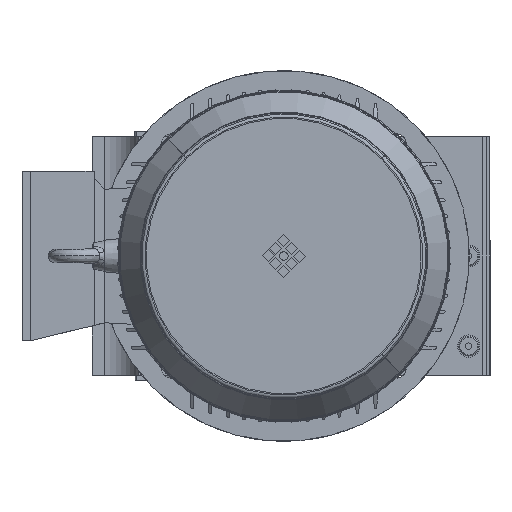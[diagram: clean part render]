
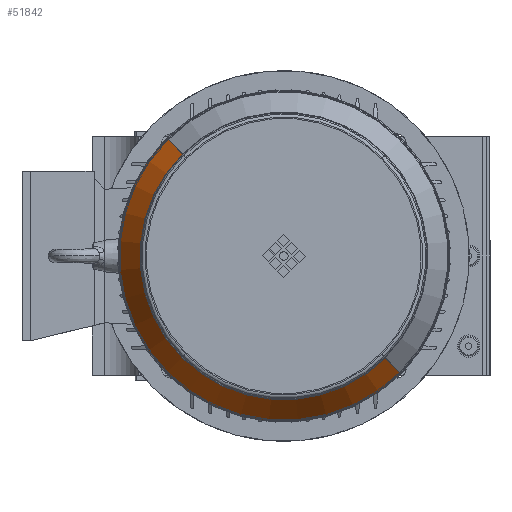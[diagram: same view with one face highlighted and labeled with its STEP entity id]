
A CAD part, left-side view. The second image highlights one B-rep face of the part: STEP entity #51842.
In plain terms, the highlighted conical face has half-angle 33.328 degrees and reference radius 156.042 mm.
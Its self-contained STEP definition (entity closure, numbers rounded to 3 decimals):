
#13428 = EDGE_LOOP ( 'NONE', ( #118229, #19781, #19801, #19791 ) ) ;
#19781 = ORIENTED_EDGE ( 'NONE', *, *, #57567, .T. ) ;
#19791 = ORIENTED_EDGE ( 'NONE', *, *, #57652, .F. ) ;
#19801 = ORIENTED_EDGE ( 'NONE', *, *, #57501, .F. ) ;
#23620 = LINE ( 'NONE', #111264, #24240 ) ;
#24240 = VECTOR ( 'NONE', #111297, 1000. ) ;
#24652 = CIRCLE ( 'NONE', #84156, 156.042 ) ;
#24685 = LINE ( 'NONE', #112493, #24703 ) ;
#24703 = VECTOR ( 'NONE', #112463, 1000. ) ;
#24718 = CIRCLE ( 'NONE', #84187, 135.658 ) ;
#50336 = CARTESIAN_POINT ( 'NONE',  ( 50.212, 0., 156.042 ) ) ;
#50466 = CARTESIAN_POINT ( 'NONE',  ( 81.211, 0., 135.658 ) ) ;
#50473 = CARTESIAN_POINT ( 'NONE',  ( 50.212, 0., -156.042 ) ) ;
#50491 = CARTESIAN_POINT ( 'NONE',  ( 81.211, 0., -135.658 ) ) ;
#51842 = ADVANCED_FACE ( 'NONE', ( #92979 ), #93127, .T. ) ;
#57501 = EDGE_CURVE ( 'NONE', #105826, #105871, #24652, .T. ) ;
#57567 = EDGE_CURVE ( 'NONE', #105898, #105871, #24685, .T. ) ;
#57589 = EDGE_CURVE ( 'NONE', #105915, #105898, #24718, .T. ) ;
#57652 = EDGE_CURVE ( 'NONE', #105915, #105826, #23620, .T. ) ;
#84156 = AXIS2_PLACEMENT_3D ( 'NONE', #113278, #113268, #113267 ) ;
#84187 = AXIS2_PLACEMENT_3D ( 'NONE', #112534, #112538, #112591 ) ;
#91932 = CARTESIAN_POINT ( 'NONE',  ( 50.212, 0., 0. ) ) ;
#91944 = DIRECTION ( 'NONE',  ( -1., 0., 0. ) ) ;
#92147 = DIRECTION ( 'NONE',  ( 0., 0., 1. ) ) ;
#92979 = FACE_OUTER_BOUND ( 'NONE', #13428, .T. ) ;
#93127 = CONICAL_SURFACE ( 'NONE', #121720, 156.042, 0.582 ) ;
#105826 = VERTEX_POINT ( 'NONE', #50336 ) ;
#105871 = VERTEX_POINT ( 'NONE', #50473 ) ;
#105898 = VERTEX_POINT ( 'NONE', #50491 ) ;
#105915 = VERTEX_POINT ( 'NONE', #50466 ) ;
#111264 = CARTESIAN_POINT ( 'NONE',  ( 50.212, 0., 156.042 ) ) ;
#111297 = DIRECTION ( 'NONE',  ( -0.836, 0., 0.549 ) ) ;
#112463 = DIRECTION ( 'NONE',  ( -0.836, 0., -0.549 ) ) ;
#112493 = CARTESIAN_POINT ( 'NONE',  ( 50.212, 0., -156.042 ) ) ;
#112534 = CARTESIAN_POINT ( 'NONE',  ( 81.211, 0., 0. ) ) ;
#112538 = DIRECTION ( 'NONE',  ( -1., 0., 0. ) ) ;
#112591 = DIRECTION ( 'NONE',  ( 0., -1., 0. ) ) ;
#113267 = DIRECTION ( 'NONE',  ( 0., -1., 0. ) ) ;
#113268 = DIRECTION ( 'NONE',  ( -1., 0., 0. ) ) ;
#113278 = CARTESIAN_POINT ( 'NONE',  ( 50.212, 0., 0. ) ) ;
#118229 = ORIENTED_EDGE ( 'NONE', *, *, #57589, .T. ) ;
#121720 = AXIS2_PLACEMENT_3D ( 'NONE', #91932, #91944, #92147 ) ;
